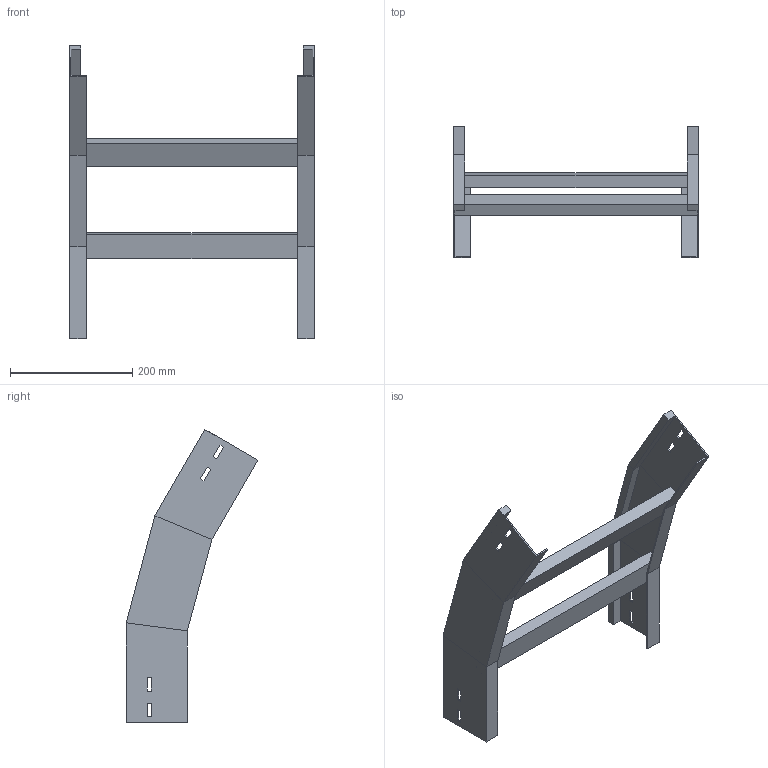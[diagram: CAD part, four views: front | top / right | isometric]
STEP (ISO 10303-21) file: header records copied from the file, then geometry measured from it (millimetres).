
FILE_DESCRIPTION (( 'STEP AP214' ), '1' );
FILE_NAME ('A2_35B3D400.step', '2025-02-21T14:46:16', ( '' ), ( '' ), 'SwSTEP 2.0', 'SolidWorks 2023', '' );
FILE_SCHEMA (( 'AUTOMOTIVE_DESIGN' ));
Length unit declared in the file: millimetre
Products named in the file (3): TRAVERSINO_400; LONGH.DISCESA_30°_H100_R300; A2_35B3D400
Assembly tree (5 placements, depth 2):
  A2_35B3D400
    LONGH.DISCESA_30°_H100_R300  x2
    TRAVERSINO_400  x3
Bounding box: 400 x 215.12 x 479.62 mm (x, y, z)
Volume: 1391629.4 mm3; surface area: 423063.6 mm2
Topology: 5 solids, 5 shells, 102 faces, 244 edges, 152 vertices
Faces by surface type: plane 102
Entity records: 1480 total; most frequent: CARTESIAN_POINT 244, ORIENTED_EDGE 232, DIRECTION 228, VECTOR 116, LINE 116, EDGE_CURVE 116, VERTEX_POINT 72, AXIS2_PLACEMENT_3D 56
